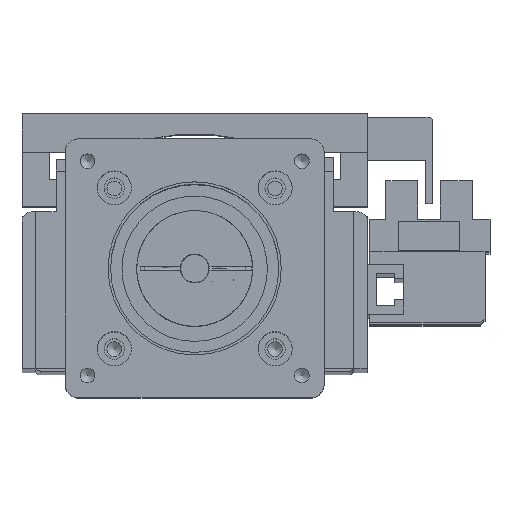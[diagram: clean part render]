
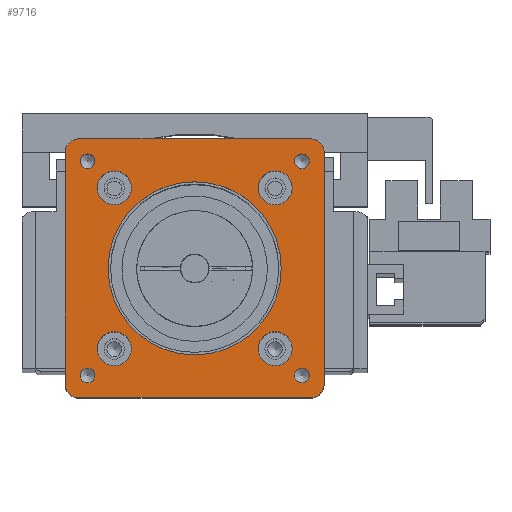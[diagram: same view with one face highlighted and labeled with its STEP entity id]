
A CAD part, top view. The second image highlights one B-rep face of the part: STEP entity #9716.
In plain terms, the highlighted planar face has unit normal (0, 0, 1).
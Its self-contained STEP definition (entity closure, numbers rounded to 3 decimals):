
#9356=CARTESIAN_POINT('',(53.691,4.93,0.0));
#9357=VERTEX_POINT('',#9356);
#9358=CARTESIAN_POINT('',(52.07,4.93,0.0));
#9359=DIRECTION('',(0.0,0.0,-1.0));
#9360=DIRECTION('',(1.0,0.0,0.0));
#9361=AXIS2_PLACEMENT_3D('',#9358,#9359,#9360);
#9362=CIRCLE('',#9361,1.621);
#9363=EDGE_CURVE('',#9357,#9357,#9362,.T.);
#9393=CARTESIAN_POINT('',(6.551,52.07,0.0));
#9394=VERTEX_POINT('',#9393);
#9395=CARTESIAN_POINT('',(4.93,52.07,0.0));
#9396=DIRECTION('',(0.0,0.0,-1.0));
#9397=DIRECTION('',(1.0,0.0,0.0));
#9398=AXIS2_PLACEMENT_3D('',#9395,#9396,#9397);
#9399=CIRCLE('',#9398,1.621);
#9400=EDGE_CURVE('',#9394,#9394,#9399,.T.);
#9430=CARTESIAN_POINT('',(53.691,52.07,0.0));
#9431=VERTEX_POINT('',#9430);
#9432=CARTESIAN_POINT('',(52.07,52.07,0.0));
#9433=DIRECTION('',(0.0,0.0,-1.0));
#9434=DIRECTION('',(1.0,0.0,0.0));
#9435=AXIS2_PLACEMENT_3D('',#9432,#9433,#9434);
#9436=CIRCLE('',#9435,1.621);
#9437=EDGE_CURVE('',#9431,#9431,#9436,.T.);
#9467=CARTESIAN_POINT('',(6.551,4.93,0.0));
#9468=VERTEX_POINT('',#9467);
#9469=CARTESIAN_POINT('',(4.93,4.93,0.0));
#9470=DIRECTION('',(0.0,0.0,-1.0));
#9471=DIRECTION('',(1.0,0.0,0.0));
#9472=AXIS2_PLACEMENT_3D('',#9469,#9470,#9471);
#9473=CIRCLE('',#9472,1.621);
#9474=EDGE_CURVE('',#9468,#9468,#9473,.T.);
#9498=CARTESIAN_POINT('',(0.0,54.0,0.0));
#9499=VERTEX_POINT('',#9498);
#9506=CARTESIAN_POINT('',(3.,57.0,0.0));
#9507=VERTEX_POINT('',#9506);
#9508=CARTESIAN_POINT('',(3.,54.0,0.0));
#9509=DIRECTION('',(0.0,0.0,-1.));
#9510=DIRECTION('',(-0.707,0.707,0.0));
#9511=AXIS2_PLACEMENT_3D('',#9508,#9509,#9510);
#9512=CIRCLE('',#9511,3.);
#9513=EDGE_CURVE('',#9499,#9507,#9512,.T.);
#9530=CARTESIAN_POINT('',(54.,57.,0.0));
#9531=VERTEX_POINT('',#9530);
#9532=CARTESIAN_POINT('',(54.,57.,0.0));
#9533=DIRECTION('',(-1.0,0.0,0.0));
#9534=VECTOR('',#9533,51.);
#9535=LINE('',#9532,#9534);
#9536=EDGE_CURVE('',#9531,#9507,#9535,.T.);
#9591=CARTESIAN_POINT('',(28.5,28.5,0.0));
#9592=DIRECTION('',(0.0,0.0,1.0));
#9593=DIRECTION('',(1.0,0.0,0.0));
#9594=AXIS2_PLACEMENT_3D('',#9591,#9592,#9593);
#9595=PLANE('',#9594);
#9596=ORIENTED_EDGE('',*,*,#9513,.F.);
#9597=CARTESIAN_POINT('',(0.0,3.,0.0));
#9598=VERTEX_POINT('',#9597);
#9599=CARTESIAN_POINT('',(0.0,54.0,0.0));
#9600=DIRECTION('',(0.0,-1.0,0.0));
#9601=VECTOR('',#9600,51.0);
#9602=LINE('',#9599,#9601);
#9603=EDGE_CURVE('',#9499,#9598,#9602,.T.);
#9604=ORIENTED_EDGE('',*,*,#9603,.T.);
#9605=CARTESIAN_POINT('',(3.,0.0,0.0));
#9606=VERTEX_POINT('',#9605);
#9607=CARTESIAN_POINT('',(3.,3.,0.0));
#9608=DIRECTION('',(0.0,0.0,-1.));
#9609=DIRECTION('',(-0.707,-0.707,0.0));
#9610=AXIS2_PLACEMENT_3D('',#9607,#9608,#9609);
#9611=CIRCLE('',#9610,3.);
#9612=EDGE_CURVE('',#9606,#9598,#9611,.T.);
#9613=ORIENTED_EDGE('',*,*,#9612,.F.);
#9614=CARTESIAN_POINT('',(54.0,0.0,0.0));
#9615=VERTEX_POINT('',#9614);
#9616=CARTESIAN_POINT('',(3.,0.0,0.0));
#9617=DIRECTION('',(1.0,0.0,0.0));
#9618=VECTOR('',#9617,51.0);
#9619=LINE('',#9616,#9618);
#9620=EDGE_CURVE('',#9606,#9615,#9619,.T.);
#9621=ORIENTED_EDGE('',*,*,#9620,.T.);
#9622=CARTESIAN_POINT('',(57.0,3.,0.0));
#9623=VERTEX_POINT('',#9622);
#9624=CARTESIAN_POINT('',(54.0,3.,0.0));
#9625=DIRECTION('',(0.0,0.0,-1.));
#9626=DIRECTION('',(0.707,-0.707,0.0));
#9627=AXIS2_PLACEMENT_3D('',#9624,#9625,#9626);
#9628=CIRCLE('',#9627,3.);
#9629=EDGE_CURVE('',#9623,#9615,#9628,.T.);
#9630=ORIENTED_EDGE('',*,*,#9629,.F.);
#9631=CARTESIAN_POINT('',(57.,54.,0.0));
#9632=VERTEX_POINT('',#9631);
#9633=CARTESIAN_POINT('',(57.0,3.,0.0));
#9634=DIRECTION('',(0.0,1.0,0.0));
#9635=VECTOR('',#9634,51.);
#9636=LINE('',#9633,#9635);
#9637=EDGE_CURVE('',#9623,#9632,#9636,.T.);
#9638=ORIENTED_EDGE('',*,*,#9637,.T.);
#9639=CARTESIAN_POINT('',(54.,54.,0.0));
#9640=DIRECTION('',(0.0,0.0,-1.));
#9641=DIRECTION('',(0.707,0.707,0.0));
#9642=AXIS2_PLACEMENT_3D('',#9639,#9640,#9641);
#9643=CIRCLE('',#9642,3.);
#9644=EDGE_CURVE('',#9531,#9632,#9643,.T.);
#9645=ORIENTED_EDGE('',*,*,#9644,.F.);
#9646=ORIENTED_EDGE('',*,*,#9536,.T.);
#9647=EDGE_LOOP('',(#9596,#9604,#9613,#9621,#9630,#9638,#9645,#9646));
#9648=FACE_OUTER_BOUND('',#9647,.T.);
#9649=ORIENTED_EDGE('',*,*,#9363,.T.);
#9650=EDGE_LOOP('',(#9649));
#9651=FACE_BOUND('',#9650,.T.);
#9652=ORIENTED_EDGE('',*,*,#9400,.T.);
#9653=EDGE_LOOP('',(#9652));
#9654=FACE_BOUND('',#9653,.T.);
#9655=ORIENTED_EDGE('',*,*,#9437,.T.);
#9656=EDGE_LOOP('',(#9655));
#9657=FACE_BOUND('',#9656,.T.);
#9658=ORIENTED_EDGE('',*,*,#9474,.T.);
#9659=EDGE_LOOP('',(#9658));
#9660=FACE_BOUND('',#9659,.T.);
#9661=CARTESIAN_POINT('',(49.95,10.8,0.0));
#9662=VERTEX_POINT('',#9661);
#9663=CARTESIAN_POINT('',(46.2,10.8,0.0));
#9664=DIRECTION('',(0.0,0.0,-1.0));
#9665=DIRECTION('',(1.0,0.0,0.0));
#9666=AXIS2_PLACEMENT_3D('',#9663,#9664,#9665);
#9667=CIRCLE('',#9666,3.75);
#9668=EDGE_CURVE('',#9662,#9662,#9667,.T.);
#9669=ORIENTED_EDGE('',*,*,#9668,.T.);
#9670=EDGE_LOOP('',(#9669));
#9671=FACE_BOUND('',#9670,.T.);
#9672=CARTESIAN_POINT('',(14.55,46.2,0.0));
#9673=VERTEX_POINT('',#9672);
#9674=CARTESIAN_POINT('',(10.8,46.2,0.0));
#9675=DIRECTION('',(0.0,0.0,-1.0));
#9676=DIRECTION('',(1.0,0.0,0.0));
#9677=AXIS2_PLACEMENT_3D('',#9674,#9675,#9676);
#9678=CIRCLE('',#9677,3.75);
#9679=EDGE_CURVE('',#9673,#9673,#9678,.T.);
#9680=ORIENTED_EDGE('',*,*,#9679,.T.);
#9681=EDGE_LOOP('',(#9680));
#9682=FACE_BOUND('',#9681,.T.);
#9683=CARTESIAN_POINT('',(14.55,10.8,0.0));
#9684=VERTEX_POINT('',#9683);
#9685=CARTESIAN_POINT('',(10.8,10.8,0.0));
#9686=DIRECTION('',(0.0,0.0,-1.0));
#9687=DIRECTION('',(1.0,0.0,0.0));
#9688=AXIS2_PLACEMENT_3D('',#9685,#9686,#9687);
#9689=CIRCLE('',#9688,3.75);
#9690=EDGE_CURVE('',#9684,#9684,#9689,.T.);
#9691=ORIENTED_EDGE('',*,*,#9690,.T.);
#9692=EDGE_LOOP('',(#9691));
#9693=FACE_BOUND('',#9692,.T.);
#9694=CARTESIAN_POINT('',(49.95,46.2,0.0));
#9695=VERTEX_POINT('',#9694);
#9696=CARTESIAN_POINT('',(46.2,46.2,0.0));
#9697=DIRECTION('',(0.0,0.0,-1.0));
#9698=DIRECTION('',(1.0,0.0,0.0));
#9699=AXIS2_PLACEMENT_3D('',#9696,#9697,#9698);
#9700=CIRCLE('',#9699,3.75);
#9701=EDGE_CURVE('',#9695,#9695,#9700,.T.);
#9702=ORIENTED_EDGE('',*,*,#9701,.T.);
#9703=EDGE_LOOP('',(#9702));
#9704=FACE_BOUND('',#9703,.T.);
#9705=CARTESIAN_POINT('',(47.55,28.5,0.0));
#9706=VERTEX_POINT('',#9705);
#9707=CARTESIAN_POINT('',(28.5,28.5,0.0));
#9708=DIRECTION('',(0.0,0.0,-1.0));
#9709=DIRECTION('',(-1.0,0.0,0.0));
#9710=AXIS2_PLACEMENT_3D('',#9707,#9708,#9709);
#9711=CIRCLE('',#9710,19.05);
#9712=EDGE_CURVE('',#9706,#9706,#9711,.T.);
#9713=ORIENTED_EDGE('',*,*,#9712,.T.);
#9714=EDGE_LOOP('',(#9713));
#9715=FACE_BOUND('',#9714,.T.);
#9716=ADVANCED_FACE('',(#9648,#9651,#9654,#9657,#9660,#9671,#9682,#9693,#9704,#9715),#9595,.T.);
